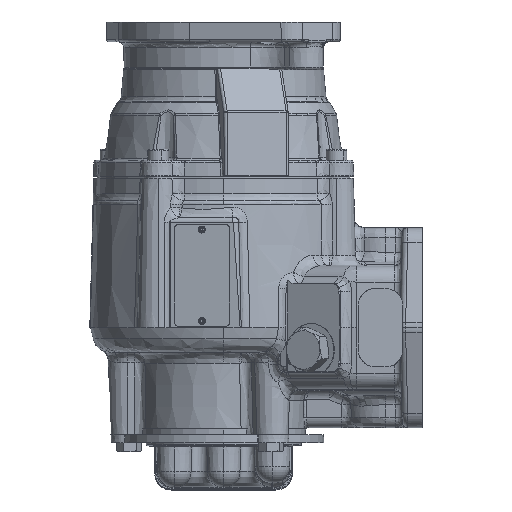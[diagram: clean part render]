
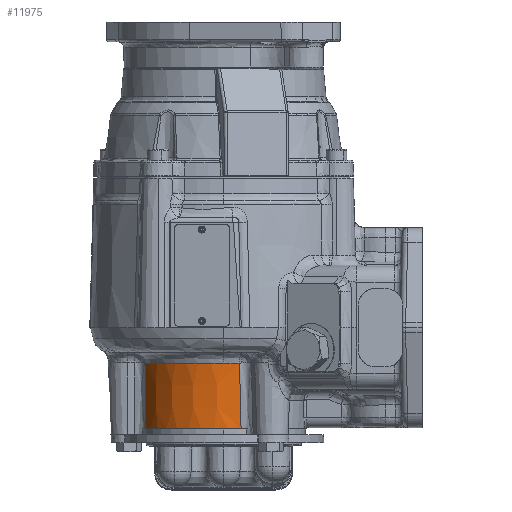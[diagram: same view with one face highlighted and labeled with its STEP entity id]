
A CAD part, left-side view. The second image highlights one B-rep face of the part: STEP entity #11975.
In plain terms, the highlighted conical face has half-angle 1 degrees and reference radius 47.516 mm.
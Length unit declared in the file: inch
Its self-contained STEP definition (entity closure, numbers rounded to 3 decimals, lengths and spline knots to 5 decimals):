
#1616 = DIRECTION ( 'NONE',  ( 0.702, -0.712, 0. ) ) ;
#5483 = CARTESIAN_POINT ( 'NONE',  ( -0.93814, 3.7686, -1.36248 ) ) ;
#9425 = ORIENTED_EDGE ( 'NONE', *, *, #116034, .T. ) ;
#11975 = ADVANCED_FACE ( 'NONE', ( #70466 ), #14464, .T. ) ;
#14214 = CARTESIAN_POINT ( 'NONE',  ( -3.33312, 3.17647, -0.36839 ) ) ;
#14464 = CONICAL_SURFACE ( 'NONE', #80093, 1.87071, 0.017 ) ;
#14800 = DIRECTION ( 'NONE',  ( 0., 0., 1. ) ) ;
#15209 = CARTESIAN_POINT ( 'NONE',  ( -0.93024, 3.75479, -1.85235 ) ) ;
#23015 = CARTESIAN_POINT ( 'NONE',  ( -0.95456, 3.79632, -0.36839 ) ) ;
#24596 = DIRECTION ( 'NONE',  ( 0.702, -0.712, 0. ) ) ;
#27024 = AXIS2_PLACEMENT_3D ( 'NONE', #33584, #116462, #98902 ) ;
#29652 = ORIENTED_EDGE ( 'NONE', *, *, #58365, .F. ) ;
#33584 = CARTESIAN_POINT ( 'NONE',  ( -1.78818, 2.12162, -0.36839 ) ) ;
#34728 = CIRCLE ( 'NONE', #27024, 1.87071 ) ;
#34753 = CARTESIAN_POINT ( 'NONE',  ( -3.33408, 3.12836, -1.85235 ) ) ;
#38859 = VERTEX_POINT ( 'NONE', #15209 ) ;
#40877 = B_SPLINE_CURVE_WITH_KNOTS ( 'NONE', 3,
 ( #34753, #117019, #79531, #14214 ),
 .UNSPECIFIED., .F., .F.,
 ( 4, 4 ),
 ( 0., 1. ),
 .UNSPECIFIED. ) ;
#42984 = CARTESIAN_POINT ( 'NONE',  ( -0.93024, 3.75479, -1.85235 ) ) ;
#44096 = VERTEX_POINT ( 'NONE', #58434 ) ;
#47576 = DIRECTION ( 'NONE',  ( 0., 0., -1. ) ) ;
#49592 = CARTESIAN_POINT ( 'NONE',  ( -1.78818, 2.12162, -1.85235 ) ) ;
#51067 = ORIENTED_EDGE ( 'NONE', *, *, #62238, .T. ) ;
#52301 = DIRECTION ( 'NONE',  ( 0.702, -0.712, 0. ) ) ;
#58365 = EDGE_CURVE ( 'NONE', #71290, #38859, #106350, .T. ) ;
#58434 = CARTESIAN_POINT ( 'NONE',  ( -3.33312, 3.17647, -0.36839 ) ) ;
#62238 = EDGE_CURVE ( 'NONE', #44096, #93930, #87423, .T. ) ;
#68521 = EDGE_CURVE ( 'NONE', #71290, #44096, #40877, .T. ) ;
#68689 = CARTESIAN_POINT ( 'NONE',  ( -1.78818, 2.12162, -0.36839 ) ) ;
#70466 = FACE_OUTER_BOUND ( 'NONE', #90156, .T. ) ;
#71290 = VERTEX_POINT ( 'NONE', #103926 ) ;
#79531 = CARTESIAN_POINT ( 'NONE',  ( -3.33361, 3.1603, -0.86782 ) ) ;
#79881 = CARTESIAN_POINT ( 'NONE',  ( -0.94624, 3.78244, -0.86782 ) ) ;
#79942 = CARTESIAN_POINT ( 'NONE',  ( -0.95456, 3.79632, -0.36839 ) ) ;
#80093 = AXIS2_PLACEMENT_3D ( 'NONE', #68689, #14800, #52301 ) ;
#82184 = CARTESIAN_POINT ( 'NONE',  ( -3.10185, 3.45347, -0.36839 ) ) ;
#84480 = CARTESIAN_POINT ( 'NONE',  ( -1.78818, 2.12162, -0.36839 ) ) ;
#86993 = AXIS2_PLACEMENT_3D ( 'NONE', #49592, #103471, #24596 ) ;
#87423 = CIRCLE ( 'NONE', #114475, 1.87071 ) ;
#90156 = EDGE_LOOP ( 'NONE', ( #51067, #9425, #110133, #29652, #103288 ) ) ;
#90385 = EDGE_CURVE ( 'NONE', #95676, #38859, #118203, .T. ) ;
#93930 = VERTEX_POINT ( 'NONE', #82184 ) ;
#95676 = VERTEX_POINT ( 'NONE', #79942 ) ;
#98902 = DIRECTION ( 'NONE',  ( 0.702, -0.712, 0. ) ) ;
#103288 = ORIENTED_EDGE ( 'NONE', *, *, #68521, .T. ) ;
#103471 = DIRECTION ( 'NONE',  ( 0., 0., -1. ) ) ;
#103926 = CARTESIAN_POINT ( 'NONE',  ( -3.33408, 3.12836, -1.85235 ) ) ;
#106350 = CIRCLE ( 'NONE', #86993, 1.84481 ) ;
#110133 = ORIENTED_EDGE ( 'NONE', *, *, #90385, .T. ) ;
#114475 = AXIS2_PLACEMENT_3D ( 'NONE', #84480, #47576, #1616 ) ;
#116034 = EDGE_CURVE ( 'NONE', #93930, #95676, #34728, .T. ) ;
#116462 = DIRECTION ( 'NONE',  ( 0., 0., -1. ) ) ;
#117019 = CARTESIAN_POINT ( 'NONE',  ( -3.33392, 3.14426, -1.36248 ) ) ;
#118203 = B_SPLINE_CURVE_WITH_KNOTS ( 'NONE', 3,
 ( #23015, #79881, #5483, #42984 ),
 .UNSPECIFIED., .F., .F.,
 ( 4, 4 ),
 ( 0., 1. ),
 .UNSPECIFIED. ) ;
